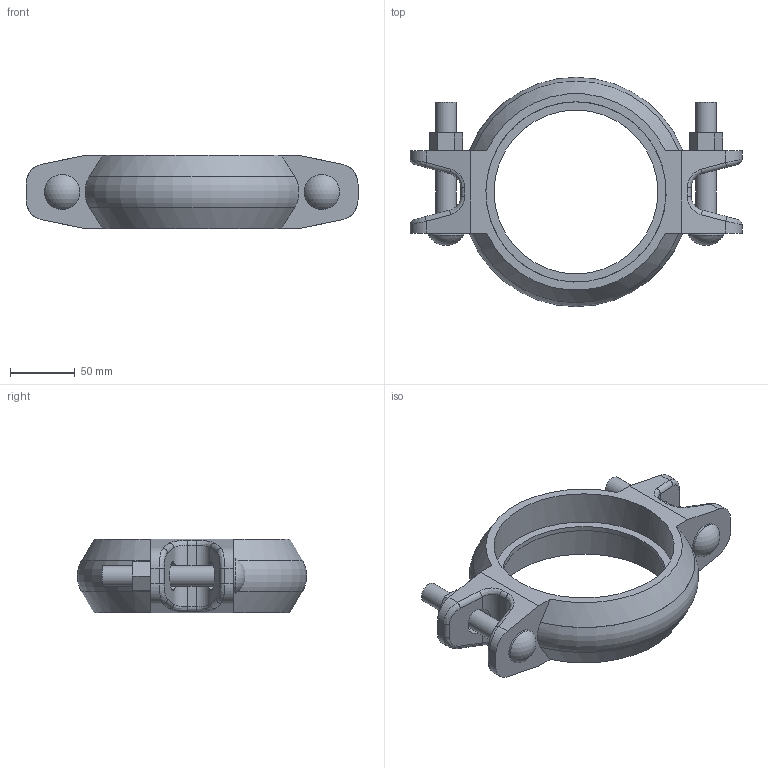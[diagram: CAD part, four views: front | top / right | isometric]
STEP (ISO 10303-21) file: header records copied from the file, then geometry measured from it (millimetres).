
FILE_DESCRIPTION(/* description */ ('QUICKVIC RIGID COUPLING FOR STEEL STYLE 107N','CAx-IF Rec.Pracs.---Representation and Presentation of Product Manufacturing Information (PMI)---4.0---2014-10-13'),/* implementation_level */ '2;1');
FILE_NAME(/* name */ 'C:\Users\Vjadhav\Desktop\CAD for Inventor\1\Coupling bolt thickness\107N\STEP\Victaulic_IPS_Coupling Rigid_Style 107N (OGS)\Victaulic_IPS_Coupling Rigid_Style 107N (OGS)_05.0 (139.7) (125).stp',/* time_stamp */ '2022-03-28T14:19:28+06:00',/* author */ ('jheald'),/* organization */ ('Victaulic'),/* preprocessor_version */ 'ST-DEVELOPER v17.2',/* originating_system */ 'Autodesk Inventor 2019',/* authorisation */ '');
FILE_SCHEMA (('AP242_MANAGED_MODEL_BASED_3D_ENGINEERING_MIM_LF { 1 0 10303 442 1 1 4 }'));
Length unit declared in the file: inch
Products named in the file (1): 107N-05.0 (139.7)
Bounding box: 257.3 x 177.75 x 57.15 mm (x, y, z)
Volume: 594738.8 mm3; surface area: 104627.9 mm2
Topology: 1 solids, 1 shells, 123 faces, 327 edges, 210 vertices
Faces by surface type: plane 50, cylinder 45, bspline 16, torus 6, cone 4, sphere 2
Full cylindrical faces by diameter (mm): 15.875 x4, 27.381 x2, 127 x1, 139.7 x2
Entity records: 4664 total; most frequent: CARTESIAN_POINT 1318, DIRECTION 675, ORIENTED_EDGE 654, EDGE_CURVE 327, AXIS2_PLACEMENT_3D 255, VERTEX_POINT 210, LINE 165, VECTOR 165
